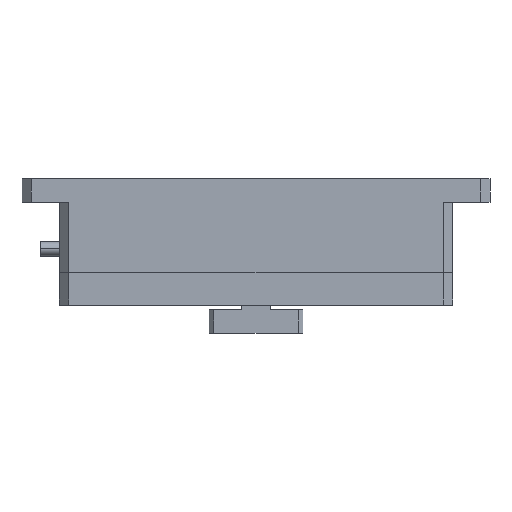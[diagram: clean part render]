
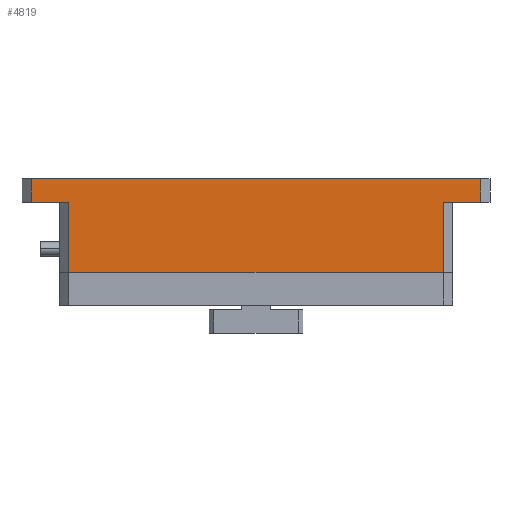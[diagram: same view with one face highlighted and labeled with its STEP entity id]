
A CAD part, left-side view. The second image highlights one B-rep face of the part: STEP entity #4819.
In plain terms, the highlighted planar face has unit normal (-1, 0, 0).
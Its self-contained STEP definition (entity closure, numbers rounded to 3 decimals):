
#80 = CARTESIAN_POINT ( 'NONE',  ( -8.261, -42.955, 57.25 ) ) ;
#85 = EDGE_CURVE ( 'NONE', #1876, #658, #6474, .T. ) ;
#111 = VERTEX_POINT ( 'NONE', #2515 ) ;
#500 = DIRECTION ( 'NONE',  ( 0., -1., 0. ) ) ;
#658 = VERTEX_POINT ( 'NONE', #3156 ) ;
#736 = VECTOR ( 'NONE', #5512, 1000. ) ;
#1031 = EDGE_CURVE ( 'NONE', #658, #5878, #1381, .T. ) ;
#1381 = LINE ( 'NONE', #8198, #736 ) ;
#1392 = CARTESIAN_POINT ( 'NONE',  ( -8.261, -50.955, 72.25 ) ) ;
#1544 = CARTESIAN_POINT ( 'NONE',  ( -8.261, 37.045, 72.25 ) ) ;
#1559 = LINE ( 'NONE', #8027, #6794 ) ;
#1608 = DIRECTION ( 'NONE',  ( 0., 0., -1. ) ) ;
#1811 = ORIENTED_EDGE ( 'NONE', *, *, #3684, .T. ) ;
#1876 = VERTEX_POINT ( 'NONE', #80 ) ;
#1962 = EDGE_CURVE ( 'NONE', #6857, #111, #3600, .T. ) ;
#1973 = VERTEX_POINT ( 'NONE', #6356 ) ;
#2075 = DIRECTION ( 'NONE',  ( 0., 0., -1. ) ) ;
#2220 = VERTEX_POINT ( 'NONE', #8528 ) ;
#2515 = CARTESIAN_POINT ( 'NONE',  ( -8.261, 37.045, 57.25 ) ) ;
#2564 = LINE ( 'NONE', #6206, #4797 ) ;
#2632 = CARTESIAN_POINT ( 'NONE',  ( -8.261, 45.045, 72.25 ) ) ;
#2644 = CARTESIAN_POINT ( 'NONE',  ( -8.261, 45.045, 72.25 ) ) ;
#2694 = CARTESIAN_POINT ( 'NONE',  ( -8.261, -39.955, 77.25 ) ) ;
#2874 = EDGE_CURVE ( 'NONE', #5878, #2220, #3334, .T. ) ;
#2884 = ORIENTED_EDGE ( 'NONE', *, *, #7126, .F. ) ;
#3019 = VECTOR ( 'NONE', #8704, 1000. ) ;
#3156 = CARTESIAN_POINT ( 'NONE',  ( -8.261, -42.955, 72.25 ) ) ;
#3324 = DIRECTION ( 'NONE',  ( 0., 1., 0. ) ) ;
#3334 = LINE ( 'NONE', #5935, #3019 ) ;
#3366 = FACE_OUTER_BOUND ( 'NONE', #7669, .T. ) ;
#3372 = VECTOR ( 'NONE', #4692, 1000. ) ;
#3379 = ORIENTED_EDGE ( 'NONE', *, *, #5803, .T. ) ;
#3600 = LINE ( 'NONE', #4989, #7867 ) ;
#3634 = EDGE_CURVE ( 'NONE', #1973, #8159, #5417, .T. ) ;
#3684 = EDGE_CURVE ( 'NONE', #8159, #6857, #1559, .T. ) ;
#3791 = CARTESIAN_POINT ( 'NONE',  ( -8.261, -42.955, 77.25 ) ) ;
#4635 = VECTOR ( 'NONE', #8604, 1000. ) ;
#4692 = DIRECTION ( 'NONE',  ( 0., 0., -1. ) ) ;
#4797 = VECTOR ( 'NONE', #4850, 1000. ) ;
#4819 = ADVANCED_FACE ( 'NONE', ( #3366 ), #6801, .F. ) ;
#4850 = DIRECTION ( 'NONE',  ( 0., 1., 0. ) ) ;
#4854 = DIRECTION ( 'NONE',  ( 1., 0., 0. ) ) ;
#4989 = CARTESIAN_POINT ( 'NONE',  ( -8.261, 37.045, 57.25 ) ) ;
#5000 = ORIENTED_EDGE ( 'NONE', *, *, #2874, .T. ) ;
#5417 = LINE ( 'NONE', #2644, #3372 ) ;
#5512 = DIRECTION ( 'NONE',  ( 0., -1., 0. ) ) ;
#5600 = VECTOR ( 'NONE', #3324, 1000. ) ;
#5803 = EDGE_CURVE ( 'NONE', #2220, #1973, #6031, .T. ) ;
#5878 = VERTEX_POINT ( 'NONE', #1392 ) ;
#5935 = CARTESIAN_POINT ( 'NONE',  ( -8.261, -50.955, 77.25 ) ) ;
#6031 = LINE ( 'NONE', #2694, #5600 ) ;
#6206 = CARTESIAN_POINT ( 'NONE',  ( -8.261, -39.955, 57.25 ) ) ;
#6356 = CARTESIAN_POINT ( 'NONE',  ( -8.261, 45.045, 77.25 ) ) ;
#6474 = LINE ( 'NONE', #3791, #4635 ) ;
#6794 = VECTOR ( 'NONE', #500, 1000. ) ;
#6801 = PLANE ( 'NONE',  #7351 ) ;
#6857 = VERTEX_POINT ( 'NONE', #1544 ) ;
#7126 = EDGE_CURVE ( 'NONE', #1876, #111, #2564, .T. ) ;
#7351 = AXIS2_PLACEMENT_3D ( 'NONE', #7490, #4854, #2075 ) ;
#7461 = ORIENTED_EDGE ( 'NONE', *, *, #1031, .T. ) ;
#7490 = CARTESIAN_POINT ( 'NONE',  ( -8.261, -39.955, 57.25 ) ) ;
#7669 = EDGE_LOOP ( 'NONE', ( #3379, #8260, #1811, #8391, #2884, #8418, #7461, #5000 ) ) ;
#7867 = VECTOR ( 'NONE', #1608, 1000. ) ;
#8027 = CARTESIAN_POINT ( 'NONE',  ( -8.261, 37.045, 72.25 ) ) ;
#8159 = VERTEX_POINT ( 'NONE', #2632 ) ;
#8198 = CARTESIAN_POINT ( 'NONE',  ( -8.261, -42.955, 72.25 ) ) ;
#8260 = ORIENTED_EDGE ( 'NONE', *, *, #3634, .T. ) ;
#8391 = ORIENTED_EDGE ( 'NONE', *, *, #1962, .T. ) ;
#8418 = ORIENTED_EDGE ( 'NONE', *, *, #85, .T. ) ;
#8528 = CARTESIAN_POINT ( 'NONE',  ( -8.261, -50.955, 77.25 ) ) ;
#8604 = DIRECTION ( 'NONE',  ( 0., 0., 1. ) ) ;
#8704 = DIRECTION ( 'NONE',  ( 0., 0., 1. ) ) ;
